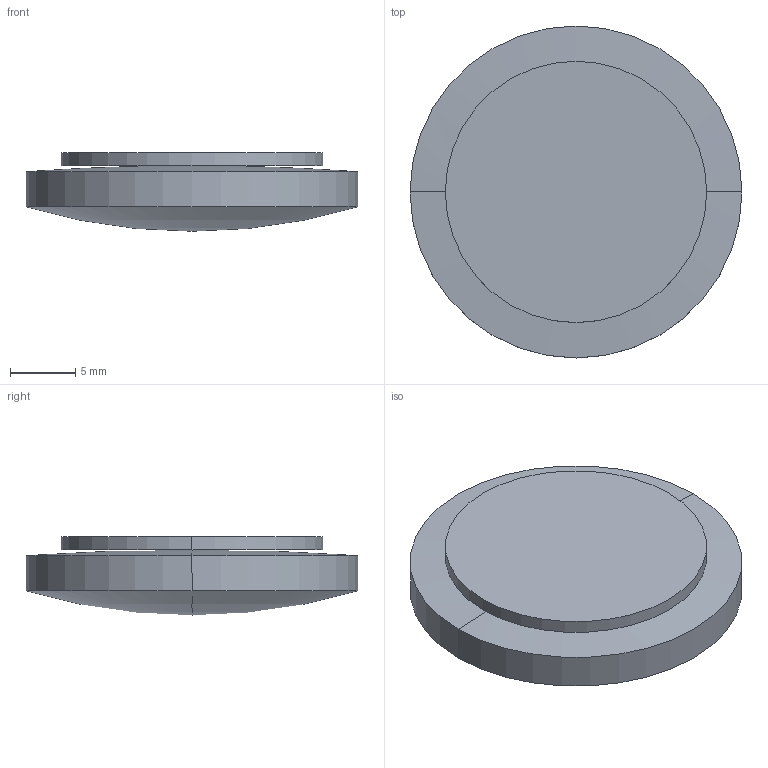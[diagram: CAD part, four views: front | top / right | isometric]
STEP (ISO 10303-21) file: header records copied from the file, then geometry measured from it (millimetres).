
FILE_DESCRIPTION(('STEP AP214'),'1');
FILE_NAME('LLQ-25-80.STEP','2020-03-09T17:41:45',(' '),(' '),'Spatial InterOp 3D',' ',' ');
FILE_SCHEMA(('AUTOMOTIVE_DESIGN { 1 0 10303 214 1 1 1 1 }'));
Length unit declared in the file: millimetre
Products named in the file (1): 1
Bounding box: 25.4 x 25.4 x 6 mm (x, y, z)
Volume: 2267.5 mm3; surface area: 1931.3 mm2
Topology: 2 solids, 2 shells, 10 faces, 20 edges, 10 vertices
Faces by surface type: sphere 4, cylinder 4, plane 2
Entity records: 255 total; most frequent: DIRECTION 52, CARTESIAN_POINT 38, ORIENTED_EDGE 32, AXIS2_PLACEMENT_3D 24, EDGE_CURVE 16, CIRCLE 12, ADVANCED_FACE 10, FACE_OUTER_BOUND 10
